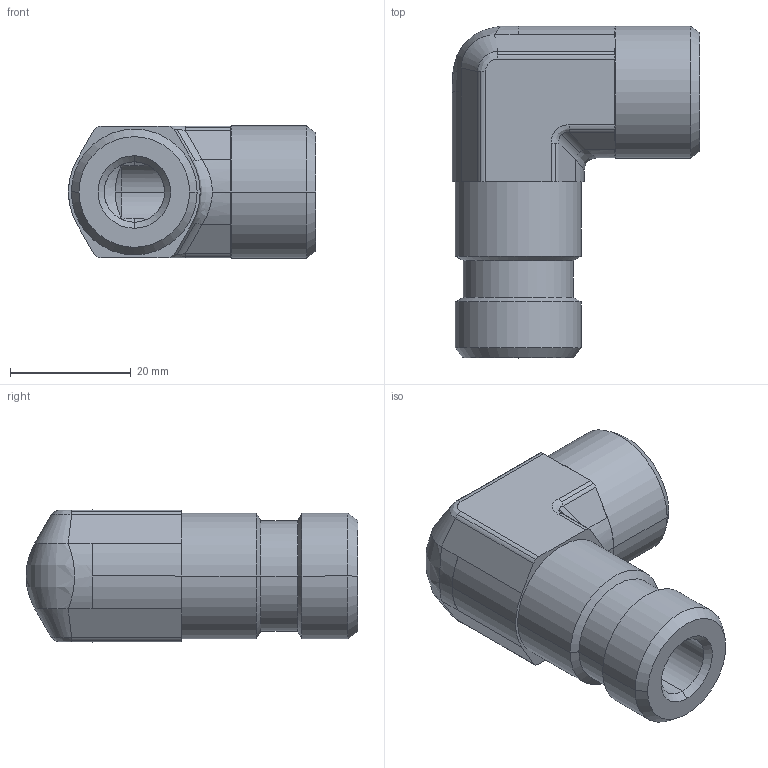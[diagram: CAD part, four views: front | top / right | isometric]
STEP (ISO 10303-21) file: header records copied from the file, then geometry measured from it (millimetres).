
FILE_DESCRIPTION((''),'2;1');
FILE_NAME('106118.stp','2007-10-31T14:49:30',(''),(''),'AutoCAD STEP 2000i','AutoCAD 2000i',', , ');
FILE_SCHEMA(('CONFIG_CONTROL_DESIGN'));
Length unit declared in the file: millimetre
Products named in the file (2): 106118.0; 3090#0
Assembly tree (1 placements, depth 2):
  106118.0
    3090#0
Bounding box: 40.9 x 54.92 x 21.85 mm (x, y, z)
Volume: 20071.3 mm3; surface area: 7962 mm2
Topology: 1 solids, 1 shells, 105 faces, 236 edges, 135 vertices
Faces by surface type: cylinder 48, cone 23, plane 22, bspline 12
Entity records: 3685 total; most frequent: CARTESIAN_POINT 1235, DIRECTION 526, ORIENTED_EDGE 472, EDGE_CURVE 236, AXIS2_PLACEMENT_3D 216, VERTEX_POINT 135, EDGE_LOOP 109, FACE_OUTER_BOUND 105
